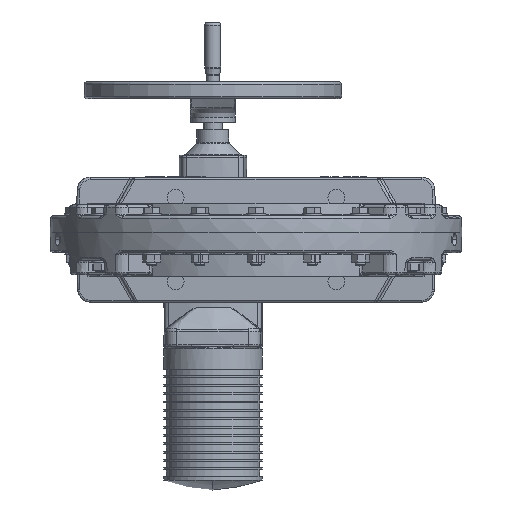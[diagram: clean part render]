
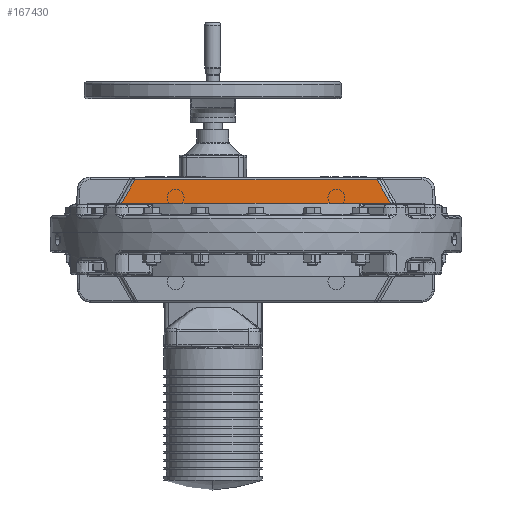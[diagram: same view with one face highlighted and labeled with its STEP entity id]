
A CAD part, front view. The second image highlights one B-rep face of the part: STEP entity #167430.
In plain terms, the highlighted planar face has unit normal (0, -0.999, 0.035).
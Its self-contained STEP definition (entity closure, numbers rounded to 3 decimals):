
#192 = VECTOR ( 'NONE', #85574, 1000. ) ;
#8378 = CARTESIAN_POINT ( 'NONE',  ( -221.536, 358.135, 34.86 ) ) ;
#10585 = VECTOR ( 'NONE', #26376, 1000. ) ;
#11364 = PLANE ( 'NONE',  #164198 ) ;
#13018 = EDGE_CURVE ( 'NONE', #165048, #154753, #82587, .T. ) ;
#15968 = VERTEX_POINT ( 'NONE', #187977 ) ;
#22248 = EDGE_LOOP ( 'NONE', ( #159810, #120951, #102516, #23918 ) ) ;
#23918 = ORIENTED_EDGE ( 'NONE', *, *, #13018, .T. ) ;
#26376 = DIRECTION ( 'NONE',  ( -0.5, 0.03, 0.866 ) ) ;
#31451 = DIRECTION ( 'NONE',  ( -1., 0., 0. ) ) ;
#32476 = CARTESIAN_POINT ( 'NONE',  ( -214.769, 358.135, 34.86 ) ) ;
#38193 = CARTESIAN_POINT ( 'NONE',  ( -218.131, 357.931, 29.037 ) ) ;
#43823 = DIRECTION ( 'NONE',  ( 0., -0.999, 0.035 ) ) ;
#53837 = DIRECTION ( 'NONE',  ( -0.5, -0.03, -0.866 ) ) ;
#63824 = LINE ( 'NONE', #77499, #136478 ) ;
#74211 = FACE_OUTER_BOUND ( 'NONE', #22248, .T. ) ;
#77499 = CARTESIAN_POINT ( 'NONE',  ( -185.821, 359.751, 81.14 ) ) ;
#82587 = LINE ( 'NONE', #8378, #192 ) ;
#85574 = DIRECTION ( 'NONE',  ( 1., 0., 0. ) ) ;
#92988 = LINE ( 'NONE', #103524, #10585 ) ;
#102516 = ORIENTED_EDGE ( 'NONE', *, *, #186005, .T. ) ;
#103524 = CARTESIAN_POINT ( 'NONE',  ( 186.954, 359.817, 83.037 ) ) ;
#120033 = VERTEX_POINT ( 'NONE', #120308 ) ;
#120308 = CARTESIAN_POINT ( 'NONE',  ( -188.05, 359.751, 81.14 ) ) ;
#120951 = ORIENTED_EDGE ( 'NONE', *, *, #170917, .T. ) ;
#128707 = CARTESIAN_POINT ( 'NONE',  ( 214.769, 358.135, 34.86 ) ) ;
#132244 = EDGE_CURVE ( 'NONE', #154753, #15968, #92988, .T. ) ;
#136478 = VECTOR ( 'NONE', #31451, 1000. ) ;
#136681 = CARTESIAN_POINT ( 'NONE',  ( -221.536, 358., 31. ) ) ;
#140593 = VECTOR ( 'NONE', #53837, 1000. ) ;
#152337 = DIRECTION ( 'NONE',  ( 0., 0.035, 0.999 ) ) ;
#154753 = VERTEX_POINT ( 'NONE', #128707 ) ;
#159810 = ORIENTED_EDGE ( 'NONE', *, *, #132244, .T. ) ;
#164198 = AXIS2_PLACEMENT_3D ( 'NONE', #136681, #43823, #152337 ) ;
#165048 = VERTEX_POINT ( 'NONE', #32476 ) ;
#167430 = ADVANCED_FACE ( 'NONE', ( #74211 ), #11364, .T. ) ;
#170917 = EDGE_CURVE ( 'NONE', #15968, #120033, #63824, .T. ) ;
#181812 = LINE ( 'NONE', #38193, #140593 ) ;
#186005 = EDGE_CURVE ( 'NONE', #120033, #165048, #181812, .T. ) ;
#187977 = CARTESIAN_POINT ( 'NONE',  ( 188.05, 359.751, 81.14 ) ) ;
